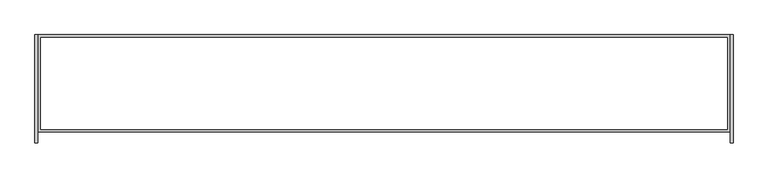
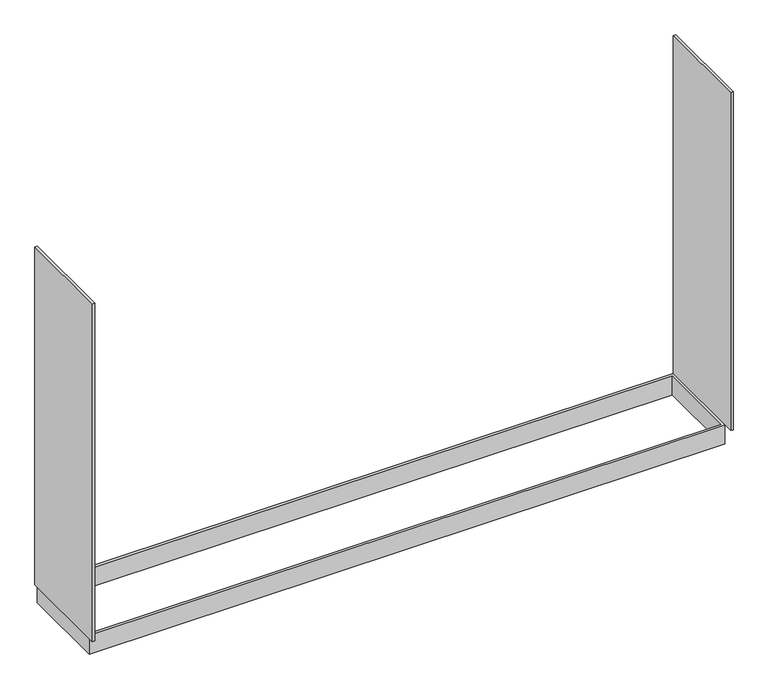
"""IFC4 building model written with IfcOpenShell, lengths in millimetres: furniture geometry, Lockers-Bay-Duracube-Duraloc : LPM-1900h x 500d x 400w with 100h x 50d Plinth."""

from ifc_helpers import new_model, si_unit, frame, origin, origin_with_axes, place, context, project, spatial, polyline, outline, extrude, source, transform, mapped, element, save


def furniture_f3d205c9(model_context):
    return source(origin(), model_context, "Body", "SweptSolid", [
        extrude(outline(polyline([(3213.0, 250.0), (3213.0, -200.0), (13.0, -200.0), (13.0, 250.0), (3213.0, 250.0)]), holes=[polyline([(3200.0, -187.0), (3200.0, 237.0), (26.0, 237.0), (26.0, -187.0), (3200.0, -187.0)])]), origin_with_axes(), (0.0, 0.0, 1.0), 100.0),
        extrude(outline(polyline([(3213.0, 250.0), (3226.0, 250.0), (3226.0, -250.0), (3213.0, -250.0), (3213.0, 250.0)])), frame((0.0, 0.0, 100.0), z_axis=(0.0, 0.0, 1.0), x_axis=(1.0, 0.0, 0.0)), (0.0, 0.0, 1.0), 1800.0),
        extrude(outline(polyline([(0.0, 250.0), (13.0, 250.0), (13.0, -250.0), (0.0, -250.0), (0.0, 250.0)])), frame((0.0, 0.0, 100.0), z_axis=(0.0, 0.0, 1.0), x_axis=(1.0, 0.0, 0.0)), (0.0, 0.0, 1.0), 1800.0),
    ])


if __name__ == "__main__":
    model = new_model("IFC4")
    model_context = context("Model", 3, world=origin())
    ifc_project = project(units=[si_unit("LENGTHUNIT", "METRE", prefix="MILLI")], contexts=[model_context])
    site = spatial("IfcSite", under=ifc_project)
    building = spatial("IfcBuilding", under=site)
    placement = place(None, origin())
    furniture_shape = furniture_f3d205c9(model_context)
    element("IfcFurniture", 1, ObjectType="Lockers-Bay-Duracube-Duraloc : LPM-1900h x 500d x 400w with 100h x 50d Plinth", at=placement, inside=building, context=model_context, shape_type="MappedRepresentation", body=[
        mapped(furniture_shape, transform((0.0, 0.0, 0.0), x_axis=(1.0, 0.0, 0.0), y_axis=(0.0, 1.0, 0.0), z_axis=(0.0, 0.0, 1.0))),
    ])
    save(model, "model.ifc")
